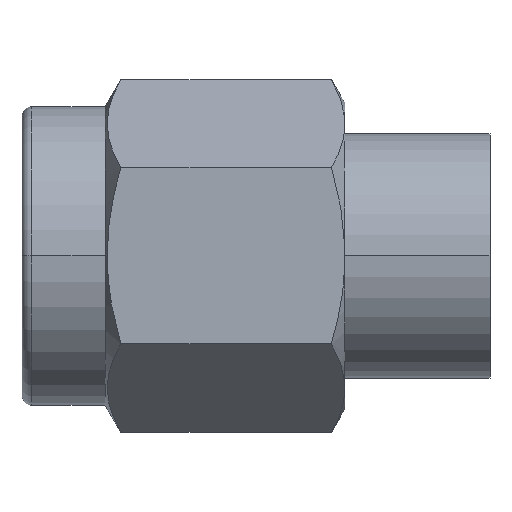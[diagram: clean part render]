
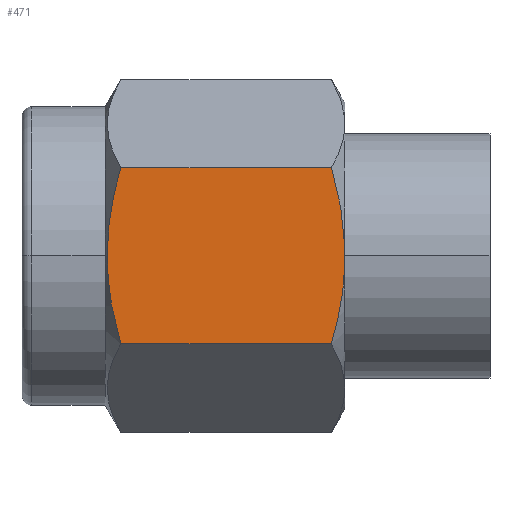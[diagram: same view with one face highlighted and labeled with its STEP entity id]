
A CAD part, top view. The second image highlights one B-rep face of the part: STEP entity #471.
In plain terms, the highlighted planar face has unit normal (0, 0, 1) as drawn and (0, 0, -1) by its records, which use the part's own axes.
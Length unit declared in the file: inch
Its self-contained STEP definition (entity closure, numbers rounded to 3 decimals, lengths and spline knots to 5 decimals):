
#202 = CARTESIAN_POINT ( 'NONE',  ( 0.24298, -0.01522, -0.156 ) ) ;
#337 = AXIS2_PLACEMENT_3D ( 'NONE', #4196, #3555, #1568 ) ;
#341 = VECTOR ( 'NONE', #3162, 39.37008 ) ;
#436 = CARTESIAN_POINT ( 'NONE',  ( 0.00045, -0.02249, -0.156 ) ) ;
#443 = EDGE_CURVE ( 'NONE', #633, #1285, #3510, .T. ) ;
#471 = ADVANCED_FACE ( 'NONE', ( #1576 ), #4232, .T. ) ;
#479 = CARTESIAN_POINT ( 'NONE',  ( 0., 0.00883, -0.156 ) ) ;
#521 = VERTEX_POINT ( 'NONE', #2292 ) ;
#633 = VERTEX_POINT ( 'NONE', #3646 ) ;
#674 = CARTESIAN_POINT ( 'NONE',  ( 0.24298, 0.01523, -0.156 ) ) ;
#720 = EDGE_CURVE ( 'NONE', #521, #3407, #3181, .T. ) ;
#747 = DIRECTION ( 'NONE',  ( 0., -1., 0. ) ) ;
#1015 = CARTESIAN_POINT ( 'NONE',  ( 0., -0.00883, -0.156 ) ) ;
#1098 = ORIENTED_EDGE ( 'NONE', *, *, #3193, .F. ) ;
#1104 = EDGE_LOOP ( 'NONE', ( #4261, #2948, #3674, #4106, #1318, #1098, #3259 ) ) ;
#1119 = DIRECTION ( 'NONE',  ( -1., 0., 0. ) ) ;
#1120 = CARTESIAN_POINT ( 'NONE',  ( 0.00675, -0.06352, -0.156 ) ) ;
#1285 = VERTEX_POINT ( 'NONE', #479 ) ;
#1318 = ORIENTED_EDGE ( 'NONE', *, *, #3839, .F. ) ;
#1465 = CARTESIAN_POINT ( 'NONE',  ( 0.01379, -0.09007, -0.156 ) ) ;
#1534 = VERTEX_POINT ( 'NONE', #2980 ) ;
#1535 = CARTESIAN_POINT ( 'NONE',  ( 0.00997, 0.07684, -0.156 ) ) ;
#1568 = DIRECTION ( 'NONE',  ( 0., 1., 0. ) ) ;
#1576 = FACE_OUTER_BOUND ( 'NONE', #1104, .T. ) ;
#1608 = CARTESIAN_POINT ( 'NONE',  ( 0.01379, -0.09007, -0.156 ) ) ;
#1630 = VERTEX_POINT ( 'NONE', #1015 ) ;
#1702 = CARTESIAN_POINT ( 'NONE',  ( 0.23675, 0.06075, -0.156 ) ) ;
#1799 = CARTESIAN_POINT ( 'NONE',  ( 0.33305, -0.09007, -0.156 ) ) ;
#1874 = CARTESIAN_POINT ( 'NONE',  ( 0.00193, 0.03611, -0.156 ) ) ;
#1900 = CARTESIAN_POINT ( 'NONE',  ( 0.23327, -0.07542, -0.156 ) ) ;
#2038 = CARTESIAN_POINT ( 'NONE',  ( 0.22905, 0.09007, -0.156 ) ) ;
#2170 = EDGE_CURVE ( 'NONE', #2227, #633, #4183, .T. ) ;
#2174 = CARTESIAN_POINT ( 'NONE',  ( 0.33305, 0.09007, -0.156 ) ) ;
#2210 = CARTESIAN_POINT ( 'NONE',  ( 0., 0.00883, -0.156 ) ) ;
#2212 = B_SPLINE_CURVE_WITH_KNOTS ( 'NONE', 3,
 ( #3018, #674, #3681, #1702, #4027, #2038 ),
 .UNSPECIFIED., .F., .F.,
 ( 4, 2, 4 ),
 ( 0.00639, 0.00755, 0.0087 ),
 .UNSPECIFIED. ) ;
#2227 = VERTEX_POINT ( 'NONE', #3523 ) ;
#2240 = CARTESIAN_POINT ( 'NONE',  ( 0.24167, -0.03034, -0.156 ) ) ;
#2292 = CARTESIAN_POINT ( 'NONE',  ( 0.22905, -0.09007, -0.156 ) ) ;
#2317 = VECTOR ( 'NONE', #1119, 39.37008 ) ;
#2576 = CARTESIAN_POINT ( 'NONE',  ( 0.24298, 0., -0.156 ) ) ;
#2601 = EDGE_CURVE ( 'NONE', #1534, #2227, #2212, .T. ) ;
#2803 = CARTESIAN_POINT ( 'NONE',  ( 0., -0.00883, -0.156 ) ) ;
#2948 = ORIENTED_EDGE ( 'NONE', *, *, #2601, .F. ) ;
#2980 = CARTESIAN_POINT ( 'NONE',  ( 0.24298, 0., -0.156 ) ) ;
#3018 = CARTESIAN_POINT ( 'NONE',  ( 0.24298, 0., -0.156 ) ) ;
#3089 = CARTESIAN_POINT ( 'NONE',  ( 0., 0.09007, -0.156 ) ) ;
#3129 = CARTESIAN_POINT ( 'NONE',  ( 0.00194, -0.03621, -0.156 ) ) ;
#3162 = DIRECTION ( 'NONE',  ( -1., 0., 0. ) ) ;
#3181 = LINE ( 'NONE', #1799, #2317 ) ;
#3193 = EDGE_CURVE ( 'NONE', #1285, #1630, #4063, .T. ) ;
#3259 = ORIENTED_EDGE ( 'NONE', *, *, #443, .F. ) ;
#3407 = VERTEX_POINT ( 'NONE', #1608 ) ;
#3460 = CARTESIAN_POINT ( 'NONE',  ( 0.00999, -0.07689, -0.156 ) ) ;
#3510 = B_SPLINE_CURVE_WITH_KNOTS ( 'NONE', 3,
 ( #3522, #1535, #3863, #1874, #4217, #2210 ),
 .UNSPECIFIED., .F., .F.,
 ( 4, 2, 4 ),
 ( 0.00295, 0.004, 0.00504 ),
 .UNSPECIFIED. ) ;
#3522 = CARTESIAN_POINT ( 'NONE',  ( 0.01379, 0.09007, -0.156 ) ) ;
#3523 = CARTESIAN_POINT ( 'NONE',  ( 0.22905, 0.09007, -0.156 ) ) ;
#3555 = DIRECTION ( 'NONE',  ( 0., 0., -1. ) ) ;
#3646 = CARTESIAN_POINT ( 'NONE',  ( 0.01379, 0.09007, -0.156 ) ) ;
#3674 = ORIENTED_EDGE ( 'NONE', *, *, #3997, .F. ) ;
#3681 = CARTESIAN_POINT ( 'NONE',  ( 0.24164, 0.03066, -0.156 ) ) ;
#3839 = EDGE_CURVE ( 'NONE', #1630, #3407, #3880, .T. ) ;
#3863 = CARTESIAN_POINT ( 'NONE',  ( 0.00671, 0.06333, -0.156 ) ) ;
#3880 = B_SPLINE_CURVE_WITH_KNOTS ( 'NONE', 3,
 ( #2803, #436, #3129, #1120, #3460, #1465 ),
 .UNSPECIFIED., .F., .F.,
 ( 4, 2, 4 ),
 ( 0.0055, 0.00654, 0.00759 ),
 .UNSPECIFIED. ) ;
#3886 = CARTESIAN_POINT ( 'NONE',  ( 0.22905, -0.09007, -0.156 ) ) ;
#3997 = EDGE_CURVE ( 'NONE', #521, #1534, #4035, .T. ) ;
#4027 = CARTESIAN_POINT ( 'NONE',  ( 0.23325, 0.0755, -0.156 ) ) ;
#4035 = B_SPLINE_CURVE_WITH_KNOTS ( 'NONE', 3,
 ( #3886, #1900, #4237, #2240, #202, #2576 ),
 .UNSPECIFIED., .F., .F.,
 ( 4, 2, 4 ),
 ( 0.00407, 0.00523, 0.00639 ),
 .UNSPECIFIED. ) ;
#4063 = LINE ( 'NONE', #3089, #4167 ) ;
#4106 = ORIENTED_EDGE ( 'NONE', *, *, #720, .T. ) ;
#4167 = VECTOR ( 'NONE', #747, 39.37008 ) ;
#4183 = LINE ( 'NONE', #2174, #341 ) ;
#4196 = CARTESIAN_POINT ( 'NONE',  ( 0.33305, 0.09007, -0.156 ) ) ;
#4217 = CARTESIAN_POINT ( 'NONE',  ( 0.00045, 0.02248, -0.156 ) ) ;
#4232 = PLANE ( 'NONE',  #337 ) ;
#4237 = CARTESIAN_POINT ( 'NONE',  ( 0.23682, -0.06042, -0.156 ) ) ;
#4261 = ORIENTED_EDGE ( 'NONE', *, *, #2170, .F. ) ;
